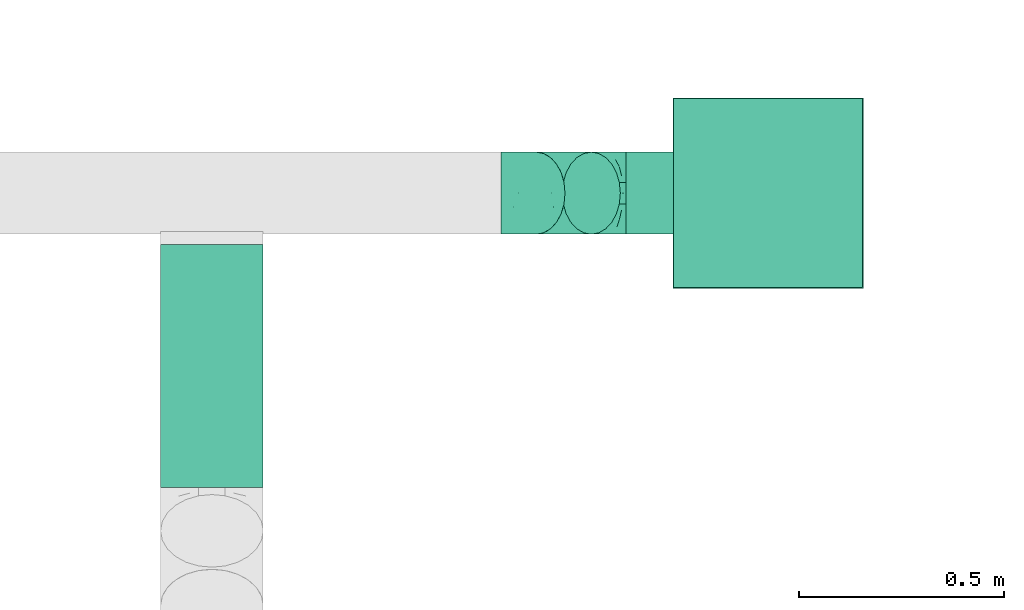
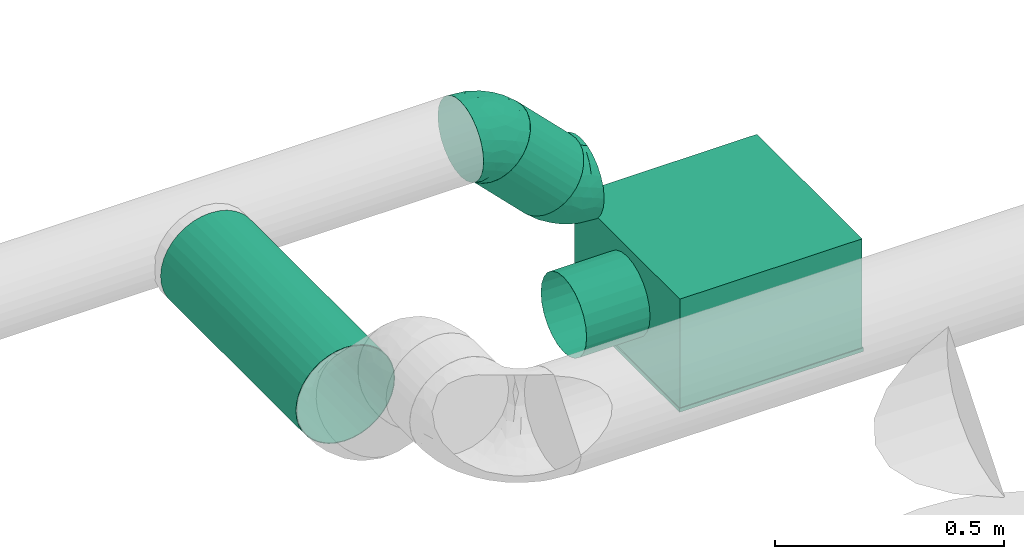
# One storey, part 15 of 31: 2 flow fittings, 2 flow segments, 1 flow terminal.
"""IFC2X3 building model written with IfcOpenShell, lengths in millimetres."""

import ifcopenshell
import ifcopenshell.guid

model = None  # the IFC model being written
_history = None  # IfcOwnerHistory: only IFC2X3 demands one
_inside = {}  # id of a spatial element -> (the spatial element, [elements in it])
_under = {}  # id of a project, library or spatial element -> (it, [spatial elements below it])
_declared = {}  # id of a project -> (the project, [libraries it declares])
_typed = {}  # id of a type object -> (the type object, [elements of that type])
_made_of = {}  # id of a material, layer set ... -> (it, [elements and type objects made of it])


def new_model(schema):
    """Start an empty IFC model of exactly this schema.

    Asked for "IFC4X3", IfcOpenShell would pick the latest addendum, in which some entities
    have other attributes; the version numbers below select the first issue.
    IFC2X3 requires an IfcOwnerHistory on every rooted entity: one is made here for all.
    """
    global model, _history
    if schema == "IFC4X3":
        model = ifcopenshell.file(schema_version=(4, 3, 0, 0))
    else:
        model = ifcopenshell.file(schema=schema)
    _inside.clear()
    _under.clear()
    _declared.clear()
    _typed.clear()
    _made_of.clear()
    _history = None
    if model.schema == "IFC2X3":
        org = make("IfcOrganization", Name="unknown")
        user = make(
            "IfcPersonAndOrganization",
            ThePerson=make("IfcPerson", FamilyName="unknown"),
            TheOrganization=org,
        )
        app = make(
            "IfcApplication",
            ApplicationDeveloper=org,
            Version="unknown",
            ApplicationFullName="unknown",
            ApplicationIdentifier="unknown",
        )
        _history = make(
            "IfcOwnerHistory",
            OwningUser=user,
            OwningApplication=app,
            ChangeAction="ADDED",
            CreationDate=0,
        )
    return model


def make(cls, **values):
    """One entity of the class cls with the attributes given. An attribute that is None is left unset."""
    return model.create_entity(
        cls, **{name: value for name, value in values.items() if value is not None}
    )


def entity(cls, *values):
    """Any entity or typed value of the class cls, its attributes in the order of the schema. None: left unset."""
    e = model.create_entity(cls)
    for i, value in enumerate(values):
        if value is not None:
            e[i] = value
    return e


def rooted(cls, **values):
    """An entity with a GlobalId (a new one), such as an element, a storey or a relation."""
    return make(cls, GlobalId=ifcopenshell.guid.new(), OwnerHistory=_history, **values)


def si_unit(unit_type, name, prefix=None):
    """IfcSIUnit, for example si_unit("LENGTHUNIT", "METRE", prefix="MILLI")."""
    return make("IfcSIUnit", UnitType=unit_type, Prefix=prefix, Name=name)


def converted_unit(unit_type, name, factor, base, dimensions=None, offset=None):
    """IfcConversionBasedUnit, such as the inch: factor (a typed value) times the base unit."""
    return make(
        "IfcConversionBasedUnit"
        if offset is None
        else "IfcConversionBasedUnitWithOffset",
        ConversionOffset=offset,
        Dimensions=None
        if dimensions is None
        else entity("IfcDimensionalExponents", *dimensions),
        UnitType=unit_type,
        Name=name,
        ConversionFactor=make(
            "IfcMeasureWithUnit", ValueComponent=factor, UnitComponent=base
        ),
    )


def derived_unit(unit_type, elements):
    """IfcDerivedUnit: a product of units, each with its exponent."""
    return make(
        "IfcDerivedUnit",
        Elements=[
            make("IfcDerivedUnitElement", Unit=unit, Exponent=power)
            for unit, power in elements
        ],
        UnitType=unit_type,
    )


def assignment(units):
    """IfcUnitAssignment: the units of a project."""
    return None if units is None else make("IfcUnitAssignment", Units=units)


def point(xyz):
    """IfcCartesianPoint."""
    return None if xyz is None else make("IfcCartesianPoint", Coordinates=xyz)


def direction(xyz):
    """IfcDirection."""
    return None if xyz is None else make("IfcDirection", DirectionRatios=xyz)


def frame(location, z_axis=None, x_axis=None):
    """IfcAxis2Placement3D, a coordinate frame: its origin and axes. An axis left out is left unset."""
    return make(
        "IfcAxis2Placement3D",
        Location=point(location),
        Axis=direction(z_axis),
        RefDirection=direction(x_axis),
    )


def frame_2d(location, x_axis=None):
    """IfcAxis2Placement2D, a coordinate frame in the plane: its origin and x axis."""
    return make(
        "IfcAxis2Placement2D", Location=point(location), RefDirection=direction(x_axis)
    )


def origin_with_axes():
    """The frame at (0, 0, 0) with the z axis (0, 0, 1) and the x axis (1, 0, 0) written out."""
    return frame((0.0, 0.0, 0.0), z_axis=(0.0, 0.0, 1.0), x_axis=(1.0, 0.0, 0.0))


def origin_2d_with_axis():
    """The frame at (0, 0) in the plane with the x axis (1, 0) written out."""
    return frame_2d((0.0, 0.0), x_axis=(1.0, 0.0))


def place(relative_to, where):
    """IfcLocalPlacement: puts the frame where relative to a parent placement (None: the world)."""
    return make(
        "IfcLocalPlacement", PlacementRelTo=relative_to, RelativePlacement=where
    )


def context(
    kind, dimensions, precision=None, world=None, true_north=None, identifier=None
):
    """IfcGeometricRepresentationContext, for example the 3D "Model" context."""
    return make(
        "IfcGeometricRepresentationContext",
        ContextIdentifier=identifier,
        ContextType=kind,
        CoordinateSpaceDimension=dimensions,
        Precision=precision,
        WorldCoordinateSystem=world,
        TrueNorth=true_north,
    )


def subcontext(parent, identifier, kind, view, scale=None):
    """IfcGeometricRepresentationSubContext, for example "Body" below "Model"."""
    return make(
        "IfcGeometricRepresentationSubContext",
        ContextIdentifier=identifier,
        ContextType=kind,
        ParentContext=parent,
        TargetScale=scale,
        TargetView=view,
    )


def project(units=None, contexts=None):
    """IfcProject with its units and contexts."""
    return rooted(
        "IfcProject",
        Name="project",
        RepresentationContexts=contexts,
        UnitsInContext=assignment(units),
    )


def spatial(cls, under=None, at=None, **own):
    """A site, building, storey or space (cls), placed at a placement, below another one or the project."""
    s = rooted(cls, ObjectPlacement=at, **own)
    if under is not None:
        _under.setdefault(under.id(), (under, []))[1].append(s)
    return s


def profile(cls, at=None, kind="AREA", **sizes):
    """A parametric profile (cls). Its sizes go by their IFC names, for example OverallWidth=200.0."""
    return make(cls, ProfileType=kind, Position=at, **sizes)


def hollow_circle(**sizes):
    """IfcCircleHollowProfileDef."""
    return profile("IfcCircleHollowProfileDef", **sizes)


def extrude(swept, where, along, depth):
    """IfcExtrudedAreaSolid: the profile swept, set in the frame where, extruded along a direction by depth."""
    return make(
        "IfcExtrudedAreaSolid",
        SweptArea=swept,
        Position=where,
        ExtrudedDirection=direction(along),
        Depth=depth,
    )


def faces_of(points, faces, orient=None, outer=None):
    """IfcFace entities. A face is a list of loops; a loop is a list of indices into points, from 0.

    orient and outer hold one flag for each loop. By default every Orientation is true, the
    first loop of a face is its IfcFaceOuterBound and the others are IfcFaceBound.
    """
    made = []
    for i, loops in enumerate(faces):
        bounds = []
        for j, loop in enumerate(loops):
            is_outer = j == 0 if outer is None else outer[i][j]
            bounds.append(
                make(
                    "IfcFaceOuterBound" if is_outer else "IfcFaceBound",
                    Bound=make("IfcPolyLoop", Polygon=[points[k] for k in loop]),
                    Orientation=True if orient is None else orient[i][j],
                )
            )
        made.append(make("IfcFace", Bounds=bounds))
    return made


def open_shell(faces, orient=None, outer=None):
    """The faces of one IfcOpenShell. surface_model builds it on its shared points."""
    return ("IfcOpenShell", faces, orient, outer)


def surface_model(cls, points, shells):
    """IfcFaceBasedSurfaceModel or IfcShellBasedSurfaceModel (cls): surfaces that need not close."""
    shared = [point(p) for p in points]
    made = [make(c, CfsFaces=faces_of(shared, fs, o, b)) for c, fs, o, b in shells]
    if cls == "IfcFaceBasedSurfaceModel":
        return make(cls, FbsmFaces=made)
    return make(cls, SbsmBoundary=made)


def shape(context_of_items, identifier, shape_type, items):
    """IfcShapeRepresentation: the items that make up one representation, for example the "Body"."""
    return make(
        "IfcShapeRepresentation",
        ContextOfItems=context_of_items,
        RepresentationIdentifier=identifier,
        RepresentationType=shape_type,
        Items=items,
    )


def source(mapping_origin, context_of_items, identifier, shape_type, items):
    """IfcRepresentationMap: a shape defined once, which mapped items show again and again."""
    return make(
        "IfcRepresentationMap",
        MappingOrigin=mapping_origin,
        MappedRepresentation=shape(context_of_items, identifier, shape_type, items),
    )


def transform(
    local_origin,
    x_axis=None,
    y_axis=None,
    z_axis=None,
    scale=None,
    scale2=None,
    scale3=None,
    uniform=True,
):
    """IfcCartesianTransformationOperator3D, or its non-uniform kind. x_axis, y_axis, z_axis: its Axis1, 2, 3."""
    if uniform:
        return make(
            "IfcCartesianTransformationOperator3D",
            Axis1=direction(x_axis),
            Axis2=direction(y_axis),
            LocalOrigin=point(local_origin),
            Scale=scale,
            Axis3=direction(z_axis),
        )
    return make(
        "IfcCartesianTransformationOperator3DnonUniform",
        Axis1=direction(x_axis),
        Axis2=direction(y_axis),
        LocalOrigin=point(local_origin),
        Scale=scale,
        Axis3=direction(z_axis),
        Scale2=scale2,
        Scale3=scale3,
    )


def mapped(mapping_source, mapping_target):
    """IfcMappedItem: shows the shape of a source again, moved by a transform."""
    return make(
        "IfcMappedItem", MappingSource=mapping_source, MappingTarget=mapping_target
    )


def made_of(thing, what):
    """Note that an element or type object is made of a material, layer set ...; save() writes the relation."""
    if what is not None:
        _made_of.setdefault(what.id(), (what, []))[1].append(thing)
    return thing


def type_object(cls, material=None, **own):
    """A type object (cls), such as IfcWallType, which elements share."""
    return made_of(rooted(cls, **own), material)


def element(
    cls,
    number,
    at=None,
    inside=None,
    cuts=None,
    type_object=None,
    material=None,
    context=None,
    identifier="Body",
    shape_type=None,
    held_by="IfcProductDefinitionShape",
    body=None,
    shapes=None,
    **own,
):
    """One element of the class cls, such as IfcWall. Its Tag is "e" and its number.

    at: its placement. inside: the storey or other place that contains it. cuts: it is an
    opening in that element (IfcRelVoidsElement). A single representation is given by context,
    identifier, shape_type and body (its items); several are given by shapes. held_by: the class
    of the entity that holds the representations. save() writes the other relations.
    """
    e = rooted(cls, Tag="e%d" % number, ObjectPlacement=at, **own)
    if body is not None:
        shapes = [shape(context, identifier, shape_type, body)]
    if shapes is not None:
        e.Representation = make(held_by, Representations=shapes)
    if inside is not None:
        _inside.setdefault(inside.id(), (inside, []))[1].append(e)
    if cuts is not None:
        rooted(
            "IfcRelVoidsElement", RelatingBuildingElement=cuts, RelatedOpeningElement=e
        )
    if type_object is not None:
        _typed.setdefault(type_object.id(), (type_object, []))[1].append(e)
    return made_of(e, material)


def aggregate(whole, parts):
    """IfcRelAggregates: a whole, such as a stair, and the parts it consists of."""
    return rooted("IfcRelAggregates", RelatingObject=whole, RelatedObjects=parts)


def save(model, path):
    """Write the relations noted so far, then the file.

    IfcRelAggregates (storeys below a building ...), IfcRelContainedInSpatialStructure (elements
    in a storey), IfcRelDefinesByType, IfcRelAssociatesMaterial and IfcRelDeclares: one each for
    every whole, place, type object, material and project.
    """
    for whole, parts in _under.values():
        aggregate(whole, parts)
    for where, things in _inside.values():
        rooted(
            "IfcRelContainedInSpatialStructure",
            RelatedElements=things,
            RelatingStructure=where,
        )
    for kind, things in _typed.values():
        rooted("IfcRelDefinesByType", RelatedObjects=things, RelatingType=kind)
    for what, things in _made_of.values():
        rooted("IfcRelAssociatesMaterial", RelatedObjects=things, RelatingMaterial=what)
    for by, libraries in _declared.values():
        rooted("IfcRelDeclares", RelatingContext=by, RelatedDefinitions=libraries)
    model.write(path)


model = new_model("IFC2X3")

# Units and contexts
model_context = context("Model", 3, precision=0.01, world=frame((0.0, 4.29681676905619e-09, 0.0)), true_north=direction((4.01073788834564e-13, 1.0)))
plan_context = context("Plan", 3, precision=0.01, world=frame((0.0, 4.29681676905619e-09, 0.0)), true_north=direction((4.01073788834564e-13, 1.0)))
body_context = subcontext(model_context, "Body", "Model", "MODEL_VIEW")
ifc_project = project(units=[converted_unit("PLANEANGLEUNIT", "DEGREE", entity("IfcPositiveLengthMeasure", 0.0174532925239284), si_unit("PLANEANGLEUNIT", "RADIAN"), dimensions=[0, 0, 0, 0, 0, 0, 0]), si_unit("AREAUNIT", "SQUARE_METRE"), si_unit("LENGTHUNIT", "METRE", prefix="MILLI"), si_unit("MASSUNIT", "GRAM", prefix="KILO"), si_unit("POWERUNIT", "WATT"), si_unit("PRESSUREUNIT", "PASCAL", prefix="KILO"), si_unit("FORCEUNIT", "NEWTON", prefix="KILO"), si_unit("ELECTRICVOLTAGEUNIT", "VOLT"), si_unit("ELECTRICCURRENTUNIT", "AMPERE"), si_unit("THERMODYNAMICTEMPERATUREUNIT", "DEGREE_CELSIUS"), si_unit("TIMEUNIT", "SECOND"), si_unit("VOLUMEUNIT", "CUBIC_METRE"), derived_unit("LINEARVELOCITYUNIT", [(si_unit("LENGTHUNIT", "METRE"), 1), (si_unit("TIMEUNIT", "SECOND"), -1)]), derived_unit("VOLUMETRICFLOWRATEUNIT", [(si_unit("VOLUMEUNIT", "CUBIC_METRE"), 1), (si_unit("TIMEUNIT", "SECOND"), -1)]), derived_unit("THERMALTRANSMITTANCEUNIT", [(si_unit("POWERUNIT", "WATT"), 1), (si_unit("THERMODYNAMICTEMPERATUREUNIT", "KELVIN"), -1), (si_unit("AREAUNIT", "SQUARE_METRE"), -1)]), derived_unit("SOUNDPRESSUREUNIT", [(si_unit("PRESSUREUNIT", "PASCAL"), 1)])], contexts=[model_context, plan_context])

# Site, building, storey
site_placement = place(None, frame((0.0, -4.29681676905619e-09, 0.0), z_axis=(0.0, 0.0, 1.0), x_axis=(1.0, 0.0, 0.0)))
site = spatial("IfcSite", under=ifc_project, at=site_placement, CompositionType="ELEMENT")
building_placement = place(site_placement, frame((0.0, 4.29681676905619e-09, 0.0), z_axis=(0.0, 0.0, 1.0), x_axis=(1.0, 0.0, 0.0)))
building = spatial("IfcBuilding", under=site, at=building_placement, Name="mc-building", CompositionType="ELEMENT")
storey_placement = place(building_placement, frame((0.0, 0.0, 210900.0), z_axis=(0.0, 0.0, 1.0), x_axis=(1.0, 0.0, 0.0)))
storey = spatial("IfcBuildingStorey", under=building, at=storey_placement, Name="Nivå F", CompositionType="ELEMENT", Elevation=210900.0)

# Flow fittings
duct_fitting_type = type_object("IfcDuctFittingType", Name="magicirc_elbow_short_001", PredefinedType="BEND")
shared_shape_1 = source(origin_with_axes(), body_context, "Body", "SurfaceModel", [
    surface_model("IfcShellBasedSurfaceModel", [(4.68854, -11.31915, -97.51858), (-24.78682, -14.91401, -98.51039), (-21.98306, 11.532, -99.67584), (-49.70565, 0.0, -100.0), (-49.70565, -70.71068, -70.71068), (-49.70565, 25.8819, -96.59259), (-49.70565, 50.0, -86.60254), (-49.70565, 70.71068, -70.71068), (-49.70565, 96.59259, -25.8819), (-49.70565, 86.60254, -50.0), (-49.70565, -86.60254, -50.0), (-49.70565, -50.0, -86.60254), (-49.70565, -25.8819, -96.59259), (-49.70565, -96.59259, -25.8819), (-49.70565, -100.0, 0.0), (-49.70565, 96.59259, 25.8819), (-49.70565, 25.8819, 96.59259), (-49.70565, 86.60254, 50.0), (-49.70565, 50.0, 86.60254), (-49.70565, 70.71068, 70.71068), (-49.70565, -25.8819, 96.59259), (-49.70565, -70.71068, 70.71068), (-49.70565, -50.0, 86.60254), (-49.70565, -86.60254, 50.0), (-49.70565, -96.59259, 25.8819), (-49.70565, 0.0, 100.0), (-49.70565, 100.0, 0.0), (16.84591, 53.44847, -96.59259), (85.1472, -14.85278, -70.71068), (35.14719, 35.14721, -100.0), (-14.85282, 85.14719, -70.71068), (-0.20816, 70.50254, -86.60254), (-26.09007, 96.38443, -50.0), (-33.1541, 103.44846, -25.8819), (105.85789, -35.56345, 0.0), (53.44846, 16.84594, -96.59259), (70.50254, -0.20812, -86.60254), (96.38445, -26.09002, -50.0), (103.44848, -33.15404, -25.8819), (-33.1541, 103.44846, 25.8819), (16.84591, 53.44847, 96.59259), (-14.85282, 85.14719, 70.71068), (-26.09007, 96.38443, 50.0), (-0.20816, 70.50254, 86.60254), (53.44846, 16.84594, 96.59259), (103.44848, -33.15404, 25.8819), (85.1472, -14.85278, 70.71068), (96.38445, -26.09002, 50.0), (70.50254, -0.20812, 86.60254), (35.14719, 35.14721, 100.0), (-35.56351, 105.85786, 0.0), (-6.65981, -78.69465, 55.32131), (-18.13184, -91.89202, 33.47276), (-24.86597, -97.5535, 0.0), (-6.78576, -95.77276, 0.0), (22.49479, -82.45996, 31.38069), (29.12437, -69.42701, 52.3949), (12.37742, -29.88175, 90.64522), (37.12406, -18.70606, 89.97421), (4.68854, -11.31914, 97.51858), (-18.231, -62.02139, 76.22982), (-13.02349, -39.47786, 89.97421), (22.87885, -55.23445, 71.73393), (-24.78682, -14.914, 98.5104), (-21.41192, 11.5723, 99.68416), (7.39001, 23.69873, 99.67584), (-15.97928, 38.57739, 94.78597), (-33.08074, 79.86395, 64.3352), (-23.56301, 62.37217, 82.35825), (34.48473, -83.25349, 0.0), (42.49433, -77.90549, 18.20625), (-42.05198, 101.52241, 0.0), (72.51984, -62.92329, 0.0), (86.56366, -51.39782, 0.0), (63.9186, -66.36327, 18.52111), (-38.64635, 93.30051, 41.23913), (50.71647, -68.4272, 35.42053), (77.79862, -52.1563, 33.47276), (60.35472, -50.93632, 55.3213), (28.07273, 6.98115, 98.51039), (56.747, -30.96448, 76.22981), (53.50229, -73.08839, 0.0), (13.84949, -89.51313, 0.0), (60.35473, -50.93631, -55.32131), (37.12406, -18.70605, -89.97421), (-38.64635, 93.30051, -41.23913), (-33.08075, 79.86395, -64.3352), (-27.44224, 60.76535, -82.35825), (-15.97928, 38.57738, -94.78597), (12.37743, -29.88176, -90.64522), (22.87886, -55.23445, -71.73393), (-13.02349, -39.47786, -89.97421), (6.95765, 23.32335, -99.68416), (-6.6598, -78.69465, -55.32131), (-18.13183, -91.89201, -33.47277), (77.79862, -52.1563, -33.47277), (-18.231, -62.02139, -76.22982), (42.40179, -74.2142, -31.38069), (12.52339, -84.24729, -35.42053), (28.49829, -69.68634, -52.39491), (25.0395, -85.13552, -18.20625), (1.72867, -92.12319, -18.52111), (28.07273, 6.98115, -98.51039), (56.74701, -30.96447, -76.22982)], [open_shell([[[0, 1, 2]], [[3, 4, 5]], [[6, 5, 7]], [[8, 9, 7]], [[10, 7, 5]], [[7, 10, 8]], [[11, 4, 12]], [[4, 3, 12]], [[13, 14, 10]], [[10, 5, 4]], [[10, 14, 8]], [[14, 15, 8]], [[16, 15, 14]], [[17, 15, 16]], [[16, 18, 19]], [[17, 16, 19]], [[20, 16, 14]], [[21, 22, 23]], [[24, 23, 22]], [[22, 20, 24]], [[24, 20, 14]], [[20, 25, 16]], [[15, 26, 8]], [[27, 28, 29]], [[30, 27, 31]], [[30, 32, 33]], [[30, 33, 27]], [[34, 27, 33]], [[35, 28, 36]], [[35, 29, 28]], [[37, 34, 38]], [[34, 37, 28]], [[27, 34, 28]], [[33, 39, 34]], [[39, 40, 34]], [[41, 39, 42]], [[43, 40, 39]], [[43, 39, 41]], [[34, 40, 44]], [[45, 46, 47]], [[45, 34, 46]], [[48, 46, 34]], [[44, 48, 34]], [[40, 49, 44]], [[39, 33, 50]], [[51, 23, 52]], [[53, 54, 52]], [[51, 55, 56]], [[57, 58, 59]], [[22, 60, 61]], [[61, 60, 62]], [[21, 23, 51]], [[59, 63, 61]], [[63, 25, 20]], [[16, 25, 64]], [[59, 65, 64]], [[20, 22, 61]], [[52, 23, 24]], [[18, 16, 66]], [[67, 68, 41]], [[67, 17, 19]], [[66, 16, 64]], [[22, 21, 60]], [[69, 70, 55]], [[71, 15, 39]], [[72, 73, 74]], [[71, 26, 15]], [[15, 17, 75]], [[76, 77, 78]], [[68, 18, 66]], [[63, 64, 25]], [[51, 52, 55]], [[21, 51, 60]], [[44, 79, 58]], [[52, 24, 53]], [[78, 47, 46]], [[48, 44, 58]], [[57, 62, 58]], [[77, 47, 78]], [[46, 48, 80]], [[58, 80, 48]], [[77, 73, 45]], [[55, 76, 56]], [[44, 49, 79]], [[59, 79, 65]], [[67, 42, 75]], [[66, 65, 40]], [[39, 75, 42]], [[76, 74, 77]], [[50, 71, 39]], [[40, 43, 66]], [[49, 40, 65]], [[80, 62, 78]], [[41, 68, 43]], [[47, 77, 45]], [[43, 68, 66]], [[64, 65, 66]], [[18, 68, 19]], [[62, 80, 58]], [[70, 81, 74]], [[78, 46, 80]], [[62, 60, 51]], [[68, 67, 19]], [[41, 42, 67]], [[56, 78, 62]], [[24, 14, 53]], [[78, 56, 76]], [[51, 56, 62]], [[61, 63, 20]], [[64, 63, 59]], [[65, 79, 49]], [[58, 79, 59]], [[74, 76, 70]], [[15, 75, 39]], [[76, 55, 70]], [[52, 82, 55]], [[81, 70, 69]], [[81, 72, 74]], [[77, 74, 73]], [[73, 34, 45]], [[67, 75, 17]], [[59, 61, 57]], [[62, 57, 61]], [[82, 52, 54]], [[82, 69, 55]], [[28, 37, 83]], [[35, 36, 84]], [[3, 5, 2]], [[1, 12, 3]], [[9, 85, 86]], [[31, 87, 30]], [[88, 6, 87]], [[6, 7, 87]], [[89, 90, 91]], [[27, 29, 92]], [[85, 8, 33]], [[93, 94, 10]], [[95, 38, 73]], [[94, 53, 13]], [[0, 2, 92]], [[96, 11, 91]], [[97, 98, 99]], [[96, 4, 11]], [[10, 94, 13]], [[98, 94, 93]], [[4, 93, 10]], [[11, 12, 91]], [[100, 82, 101]], [[96, 90, 93]], [[69, 100, 97]], [[8, 26, 71]], [[93, 4, 96]], [[71, 50, 33]], [[88, 2, 5]], [[33, 32, 85]], [[31, 88, 87]], [[83, 97, 99]], [[6, 88, 5]], [[1, 91, 12]], [[31, 27, 88]], [[9, 86, 7]], [[84, 89, 0]], [[88, 27, 92]], [[84, 0, 102]], [[92, 2, 88]], [[90, 84, 103]], [[84, 36, 103]], [[95, 37, 38]], [[29, 35, 102]], [[95, 83, 37]], [[86, 87, 7]], [[95, 73, 72]], [[54, 53, 101]], [[98, 101, 94]], [[97, 83, 95]], [[36, 28, 103]], [[102, 92, 29]], [[90, 103, 83]], [[33, 8, 71]], [[90, 96, 91]], [[28, 83, 103]], [[32, 30, 86]], [[87, 86, 30]], [[99, 93, 90]], [[94, 101, 53]], [[93, 99, 98]], [[83, 99, 90]], [[2, 1, 3]], [[91, 1, 0]], [[84, 102, 35]], [[92, 102, 0]], [[101, 98, 100]], [[86, 85, 32]], [[98, 97, 100]], [[95, 81, 97]], [[82, 100, 69]], [[82, 54, 101]], [[53, 14, 13]], [[8, 85, 9]], [[38, 34, 73]], [[90, 89, 84]], [[91, 0, 89]], [[81, 95, 72]], [[81, 69, 97]]])]),
])
for number, where, z_axis, x_axis, name in (
    (1, (719804.33296, 442205.1766, 3320.0), (0.0, 1.0, 0.0), (-1.0, 0.0, 0.0), "magicirc_elbow_short_001"),
    (2, (719599.33307, 442205.1766, 3525.0), (0.0, -1.0, 0.0), (-0.707106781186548, 0.0, 0.707106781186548), "magicirc_elbow_short_001"),
):
    element("IfcFlowFitting", number, at=place(storey_placement, frame(where, z_axis=z_axis, x_axis=x_axis)), inside=storey, type_object=duct_fitting_type, Name=name, context=body_context, shape_type="MappedRepresentation", body=[
        mapped(shared_shape_1, transform((0.0, 0.0, 0.0), scale=1.0)),
    ])

# Flow segments
duct_segment_type = type_object("IfcDuctSegmentType", Name="KK001T - Spiro kanaler, Forsinket stål", PredefinedType="RIGIDSEGMENT")
shared_shape_2 = source(origin_with_axes(), body_context, "Body", "SweptSolid", [
    extrude(hollow_circle(Radius=100.0, WallThickness=2.0, at=origin_2d_with_axis()), frame((0.0, 0.0, 0.0), z_axis=(1.0, 0.0, 0.0), x_axis=(0.0, 1.0, 0.0)), (0.0, 0.0, 1.0), 190.5),
])
flow_segment_1_placement = place(storey_placement, frame((719769.18577, 442205.1766, 3355.14721), z_axis=(0.707106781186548, 0.0, 0.707106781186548), x_axis=(-0.707106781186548, 0.0, 0.707106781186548)))
element("IfcFlowSegment", 3, at=flow_segment_1_placement, inside=storey, type_object=duct_segment_type, Name="KK001T - Spiro kanaler, Forsinket stål", context=body_context, shape_type="MappedRepresentation", body=[
    mapped(shared_shape_2, transform((0.0, 0.0, 0.0), scale=1.0)),
])
shared_shape_3 = source(origin_with_axes(), body_context, "Body", "SweptSolid", [
    extrude(hollow_circle(Radius=125.0, WallThickness=2.0, at=origin_2d_with_axis()), frame((0.0, 0.0, 0.0), z_axis=(1.0, 0.0, 0.0), x_axis=(0.0, 1.0, 0.0)), (0.0, 0.0, 1.0), 591.2),
])
flow_segment_2_placement = place(storey_placement, frame((718845.42889, 442080.1766, 3525.0), z_axis=(0.0, 0.0, 1.0), x_axis=(0.0, -1.0, 0.0)))
element("IfcFlowSegment", 4, at=flow_segment_2_placement, inside=storey, type_object=duct_segment_type, Name="KK001T - Spiro kanaler, Forsinket stål", context=body_context, shape_type="MappedRepresentation", body=[
    mapped(shared_shape_3, transform((0.0, 0.0, 0.0), scale=1.0)),
])

# Flow terminal
air_terminal_type = type_object("IfcAirTerminalType", Name="NS19-H-S-2-200 - 4-way", PredefinedType="NOTDEFINED")
shared_shape_4 = source(origin_with_axes(), body_context, "Body", "SurfaceModel", [
    surface_model("IfcShellBasedSurfaceModel", [(-231.99999, 231.99999, 0.0), (-231.99999, -231.99999, 0.0), (231.99999, -231.99999, 0.0), (231.99999, 231.99999, 0.0), (231.99999, 231.99999, -10.0), (231.99999, -231.99999, -10.0), (-231.99999, -231.99999, -10.0), (-231.99999, 231.99999, -10.0), (-230.0, 230.0, 289.99999), (-230.0, -230.0, 289.99999), (230.0, -230.0, 289.99999), (230.0, 230.0, 289.99999), (230.0, 230.0, 0.0), (230.0, -230.0, 0.0), (-230.0, -230.0, 0.0), (-230.0, 230.0, 0.0), (-230.0, 50.0, 78.39746), (-230.0, 70.71068, 94.28932), (-230.0, 49.9, 78.57067), (-230.0, 25.83014, 68.6006), (-230.0, 0.0, 65.2), (-230.0, 25.8819, 68.40742), (-230.0, 0.0, 65.0), (-230.0, 70.56926, 94.43075), (-230.0, 96.59259, 139.1181), (-230.0, 99.8, 164.99999), (-230.0, 96.39939, 139.16986), (-230.0, 100.0, 164.99999), (-230.0, 86.60254, 115.0), (-230.0, 86.42934, 115.1), (-230.0, -25.83014, 68.6006), (-230.0, -25.8819, 68.40742), (-230.0, -49.9, 78.57067), (-230.0, -70.71068, 94.28932), (-230.0, -50.0, 78.39746), (-230.0, -70.56926, 94.43075), (-230.0, -86.42934, 115.1), (-230.0, -86.60254, 115.0), (-230.0, -96.39939, 139.16986), (-230.0, -96.59259, 139.1181), (-230.0, -99.8, 164.99999), (-230.0, -100.0, 164.99999), (-230.0, 96.59259, 190.8819), (-230.0, 96.39939, 190.83014), (-230.0, 86.42934, 214.9), (-230.0, 86.60254, 214.99999), (-230.0, 70.56926, 235.56925), (-230.0, 70.71068, 235.71069), (-230.0, 50.0, 251.60254), (-230.0, 49.9, 251.42933), (-230.0, 25.83014, 261.3994), (-230.0, 25.8819, 261.59259), (-230.0, 0.0, 264.80001), (-230.0, 0.0, 264.99999), (-230.0, -86.60254, 214.99999), (-230.0, -86.42934, 214.9), (-230.0, -70.71068, 235.71069), (-230.0, -70.56926, 235.56925), (-230.0, -96.59259, 190.8819), (-230.0, -96.39939, 190.83014), (-230.0, -25.83014, 261.3994), (-230.0, -25.8819, 261.59259), (-230.0, -49.9, 251.42933), (-230.0, -50.0, 251.60254), (-390.0, 50.0, 251.60254), (-390.0, 70.71068, 235.71069), (-390.0, 49.9, 251.42933), (-390.0, 25.83014, 261.3994), (-390.0, 0.0, 264.80001), (-390.0, 25.8819, 261.59259), (-390.0, 0.0, 264.99999), (-390.0, 70.56926, 235.56925), (-390.0, 96.59259, 190.8819), (-390.0, 99.8, 164.99999), (-390.0, 96.39939, 190.83014), (-390.0, 100.0, 164.99999), (-390.0, 86.60254, 214.99999), (-390.0, 86.42934, 214.9), (-390.0, -25.83014, 261.3994), (-390.0, -25.8819, 261.59259), (-390.0, -49.9, 251.42933), (-390.0, -70.71068, 235.71069), (-390.0, -50.0, 251.60254), (-390.0, -70.56926, 235.56925), (-390.0, -86.42934, 214.9), (-390.0, -86.60254, 214.99999), (-390.0, -96.39939, 190.83014), (-390.0, -96.59259, 190.8819), (-390.0, -99.8, 164.99999), (-390.0, -100.0, 164.99999), (-390.0, 96.59259, 139.1181), (-390.0, 96.39939, 139.16986), (-390.0, 86.42934, 115.1), (-390.0, 86.60254, 115.0), (-390.0, 70.56926, 94.43075), (-390.0, 70.71068, 94.28932), (-390.0, 50.0, 78.39746), (-390.0, 49.9, 78.57067), (-390.0, 25.83014, 68.6006), (-390.0, 25.8819, 68.40742), (-390.0, 0.0, 65.2), (-390.0, 0.0, 65.0), (-390.0, -86.60254, 115.0), (-390.0, -86.42934, 115.1), (-390.0, -70.71068, 94.28932), (-390.0, -70.56926, 94.43075), (-390.0, -96.59259, 139.1181), (-390.0, -96.39939, 139.16986), (-390.0, -25.83014, 68.6006), (-390.0, -25.8819, 68.40742), (-390.0, -49.9, 78.57067), (-390.0, -50.0, 78.39746)], [open_shell([[[0, 1, 2]], [[2, 3, 0]], [[4, 5, 6]], [[6, 7, 4]], [[2, 1, 6]], [[6, 5, 2]], [[3, 2, 5]], [[5, 4, 3]], [[0, 3, 4]], [[4, 7, 0]], [[1, 0, 7]], [[7, 6, 1]], [[8, 9, 10]], [[10, 11, 8]], [[12, 13, 14]], [[14, 15, 12]], [[10, 9, 13]], [[14, 13, 9]], [[11, 10, 12]], [[13, 12, 10]], [[8, 11, 15]], [[12, 15, 11]], [[9, 8, 14]], [[15, 14, 8]], [[16, 17, 18]], [[16, 18, 19]], [[20, 21, 19]], [[21, 20, 22]], [[19, 21, 16]], [[18, 17, 23]], [[24, 25, 26]], [[25, 24, 27]], [[24, 26, 28]], [[23, 28, 29]], [[28, 23, 17]], [[29, 28, 26]], [[22, 30, 31]], [[31, 30, 32]], [[33, 34, 35]], [[32, 34, 31]], [[32, 35, 34]], [[22, 20, 30]], [[36, 37, 33]], [[37, 36, 38]], [[36, 33, 35]], [[39, 38, 40]], [[38, 39, 37]], [[39, 40, 41]], [[27, 42, 43]], [[43, 42, 44]], [[44, 45, 46]], [[45, 44, 42]], [[46, 45, 47]], [[47, 48, 49]], [[49, 48, 50]], [[50, 51, 52]], [[51, 50, 48]], [[52, 51, 53]], [[49, 46, 47]], [[54, 55, 56]], [[56, 55, 57]], [[55, 54, 58]], [[41, 59, 58]], [[58, 59, 55]], [[41, 40, 59]], [[60, 53, 61]], [[60, 61, 62]], [[57, 63, 56]], [[57, 62, 63]], [[63, 62, 61]], [[52, 53, 60]], [[43, 25, 27]], [[64, 65, 66]], [[64, 66, 67]], [[68, 69, 67]], [[69, 68, 70]], [[67, 69, 64]], [[66, 65, 71]], [[72, 73, 74]], [[73, 72, 75]], [[72, 74, 76]], [[71, 76, 77]], [[76, 71, 65]], [[77, 76, 74]], [[70, 78, 79]], [[79, 78, 80]], [[81, 82, 83]], [[80, 82, 79]], [[80, 83, 82]], [[70, 68, 78]], [[84, 85, 81]], [[85, 84, 86]], [[84, 81, 83]], [[87, 86, 88]], [[86, 87, 85]], [[87, 88, 89]], [[75, 90, 91]], [[91, 90, 92]], [[92, 93, 94]], [[93, 92, 90]], [[94, 93, 95]], [[95, 96, 97]], [[97, 96, 98]], [[98, 99, 100]], [[99, 98, 96]], [[100, 99, 101]], [[97, 94, 95]], [[102, 103, 104]], [[104, 103, 105]], [[103, 102, 106]], [[89, 107, 106]], [[106, 107, 103]], [[89, 88, 107]], [[108, 101, 109]], [[108, 109, 110]], [[105, 111, 104]], [[105, 110, 111]], [[111, 110, 109]], [[100, 101, 108]], [[91, 73, 75]], [[39, 106, 102]], [[104, 37, 102]], [[34, 111, 109]], [[104, 111, 33]], [[31, 109, 101]], [[106, 41, 89]], [[106, 39, 41]], [[102, 37, 39]], [[104, 33, 37]], [[34, 33, 111]], [[109, 31, 34]], [[101, 22, 31]], [[21, 99, 96]], [[95, 16, 96]], [[28, 93, 90]], [[95, 93, 17]], [[24, 90, 75]], [[99, 21, 22]], [[96, 16, 21]], [[95, 17, 16]], [[93, 28, 17]], [[24, 28, 90]], [[75, 27, 24]], [[99, 22, 101]], [[75, 72, 42]], [[48, 64, 69]], [[64, 47, 65]], [[51, 69, 70]], [[72, 45, 42]], [[42, 27, 75]], [[76, 47, 45]], [[76, 65, 47]], [[47, 64, 48]], [[69, 51, 48]], [[76, 45, 72]], [[70, 53, 51]], [[61, 79, 82]], [[81, 63, 82]], [[54, 85, 87]], [[81, 85, 56]], [[58, 87, 89]], [[79, 61, 53]], [[82, 63, 61]], [[81, 56, 63]], [[85, 54, 56]], [[58, 54, 87]], [[89, 41, 58]], [[79, 53, 70]], [[103, 107, 38]], [[103, 36, 105]], [[108, 110, 32]], [[35, 110, 105]], [[100, 108, 30]], [[88, 40, 107]], [[40, 38, 107]], [[38, 36, 103]], [[36, 35, 105]], [[110, 35, 32]], [[32, 30, 108]], [[30, 20, 100]], [[97, 98, 19]], [[97, 18, 94]], [[91, 92, 29]], [[23, 92, 94]], [[73, 91, 26]], [[20, 19, 98]], [[19, 18, 97]], [[18, 23, 94]], [[23, 29, 92]], [[91, 29, 26]], [[26, 25, 73]], [[100, 20, 98]], [[43, 74, 73]], [[67, 66, 49]], [[71, 46, 66]], [[68, 67, 50]], [[43, 44, 74]], [[73, 25, 43]], [[44, 46, 77]], [[46, 71, 77]], [[49, 66, 46]], [[49, 50, 67]], [[74, 44, 77]], [[50, 52, 68]], [[80, 78, 60]], [[80, 62, 83]], [[86, 84, 55]], [[57, 84, 83]], [[88, 86, 59]], [[52, 60, 78]], [[60, 62, 80]], [[62, 57, 83]], [[57, 55, 84]], [[86, 55, 59]], [[59, 40, 88]], [[68, 52, 78]]])]),
])
flow_terminal_placement = place(storey_placement, frame((720199.7558, 442205.1766, 2800.0), z_axis=(0.0, 0.0, 1.0), x_axis=(1.0, 0.0, 0.0)))
element("IfcFlowTerminal", 5, at=flow_terminal_placement, inside=storey, type_object=air_terminal_type, Name="NS19-H-S-2-200 - 4-way", context=body_context, shape_type="MappedRepresentation", body=[
    mapped(shared_shape_4, transform((0.0, 0.0, 0.0), scale=1.0)),
])

save(model, "model.ifc")
